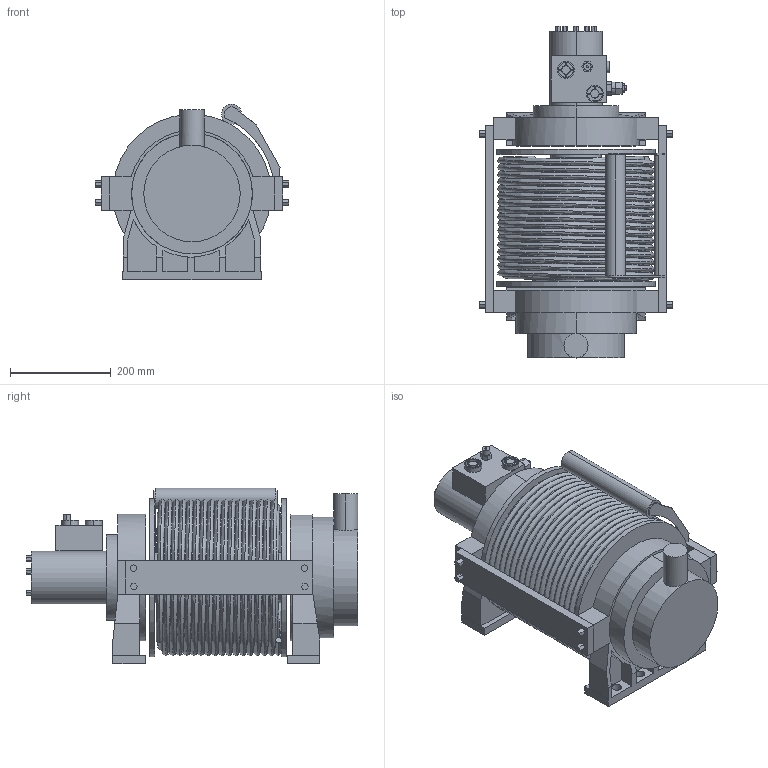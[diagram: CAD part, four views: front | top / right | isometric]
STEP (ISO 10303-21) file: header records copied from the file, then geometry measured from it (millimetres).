
FILE_DESCRIPTION (( 'STEP AP214' ), '1' );
FILE_NAME ('DWHI 240 HD EN.STEP', '2026-02-24T13:00:03', ( '' ), ( '' ), 'SwSTEP 2.0', 'SolidWorks 2026', '' );
FILE_SCHEMA (( 'AUTOMOTIVE_DESIGN' ));
Length unit declared in the file: millimetre
Products named in the file (7): 022026_NOGI_DWHI240DHEN; 022026_BEBEN_DWHI240DHEN; 022026_ZOB_DWHI2000ST_lina_fi4_10m_0001; DWHI 240 HD EN; 022026_DOCISKACZ_DWHI240DHEN; 022026_BELKA_2_DWHI240DHEN; 022026_NOGI_2_DWHI240DHEN
Assembly tree (7 placements, depth 2):
  DWHI 240 HD EN
    022026_NOGI_2_DWHI240DHEN
    022026_NOGI_DWHI240DHEN
    022026_BELKA_2_DWHI240DHEN  x2
    022026_BEBEN_DWHI240DHEN
    022026_ZOB_DWHI2000ST_lina_fi4_10m_0001
    022026_DOCISKACZ_DWHI240DHEN
Bounding box: 385 x 660 x 348.85 mm (x, y, z)
Volume: 22688951.1 mm3; surface area: 2817782.7 mm2
Topology: 9 solids, 9 shells, 389 faces, 987 edges, 651 vertices
Faces by surface type: plane 294, cylinder 89, bspline 6
Entity records: 49563 total; most frequent: CARTESIAN_POINT 40542, ORIENTED_EDGE 1800, DIRECTION 1799, EDGE_CURVE 900, VECTOR 667, LINE 667, VERTEX_POINT 589, AXIS2_PLACEMENT_3D 566
